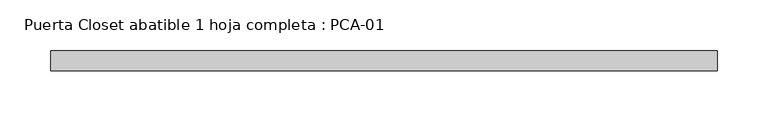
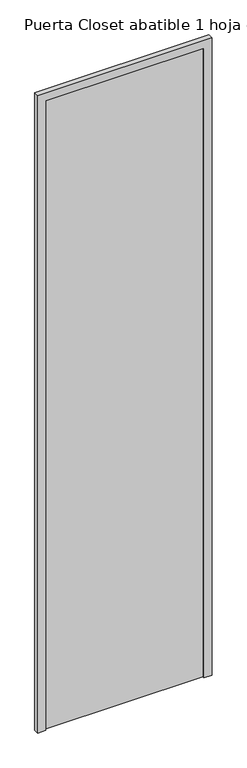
"""IFC4 building model written with IfcOpenShell, lengths in millimetres: furniture geometry, Puerta Closet abatible 1 hoja completa : PCA-01."""

import ifcopenshell
import ifcopenshell.guid

model = None  # the IFC model being written
_history = None  # IfcOwnerHistory: only IFC2X3 demands one
_inside = {}  # id of a spatial element -> (the spatial element, [elements in it])
_under = {}  # id of a project, library or spatial element -> (it, [spatial elements below it])
_declared = {}  # id of a project -> (the project, [libraries it declares])
_typed = {}  # id of a type object -> (the type object, [elements of that type])
_made_of = {}  # id of a material, layer set ... -> (it, [elements and type objects made of it])


def new_model(schema):
    """Start an empty IFC model of exactly this schema.

    Asked for "IFC4X3", IfcOpenShell would pick the latest addendum, in which some entities
    have other attributes; the version numbers below select the first issue.
    IFC2X3 requires an IfcOwnerHistory on every rooted entity: one is made here for all.
    """
    global model, _history
    if schema == "IFC4X3":
        model = ifcopenshell.file(schema_version=(4, 3, 0, 0))
    else:
        model = ifcopenshell.file(schema=schema)
    _inside.clear()
    _under.clear()
    _declared.clear()
    _typed.clear()
    _made_of.clear()
    _history = None
    if model.schema == "IFC2X3":
        org = make("IfcOrganization", Name="unknown")
        user = make(
            "IfcPersonAndOrganization",
            ThePerson=make("IfcPerson", FamilyName="unknown"),
            TheOrganization=org,
        )
        app = make(
            "IfcApplication",
            ApplicationDeveloper=org,
            Version="unknown",
            ApplicationFullName="unknown",
            ApplicationIdentifier="unknown",
        )
        _history = make(
            "IfcOwnerHistory",
            OwningUser=user,
            OwningApplication=app,
            ChangeAction="ADDED",
            CreationDate=0,
        )
    return model


def make(cls, **values):
    """One entity of the class cls with the attributes given. An attribute that is None is left unset."""
    return model.create_entity(
        cls, **{name: value for name, value in values.items() if value is not None}
    )


def rooted(cls, **values):
    """An entity with a GlobalId (a new one), such as an element, a storey or a relation."""
    return make(cls, GlobalId=ifcopenshell.guid.new(), OwnerHistory=_history, **values)


def si_unit(unit_type, name, prefix=None):
    """IfcSIUnit, for example si_unit("LENGTHUNIT", "METRE", prefix="MILLI")."""
    return make("IfcSIUnit", UnitType=unit_type, Prefix=prefix, Name=name)


def assignment(units):
    """IfcUnitAssignment: the units of a project."""
    return None if units is None else make("IfcUnitAssignment", Units=units)


def point(xyz):
    """IfcCartesianPoint."""
    return None if xyz is None else make("IfcCartesianPoint", Coordinates=xyz)


def direction(xyz):
    """IfcDirection."""
    return None if xyz is None else make("IfcDirection", DirectionRatios=xyz)


def frame(location, z_axis=None, x_axis=None):
    """IfcAxis2Placement3D, a coordinate frame: its origin and axes. An axis left out is left unset."""
    return make(
        "IfcAxis2Placement3D",
        Location=point(location),
        Axis=direction(z_axis),
        RefDirection=direction(x_axis),
    )


def origin():
    """The frame at (0, 0, 0) with its axes left unset."""
    return frame((0.0, 0.0, 0.0))


def origin_with_axes():
    """The frame at (0, 0, 0) with the z axis (0, 0, 1) and the x axis (1, 0, 0) written out."""
    return frame((0.0, 0.0, 0.0), z_axis=(0.0, 0.0, 1.0), x_axis=(1.0, 0.0, 0.0))


def place(relative_to, where):
    """IfcLocalPlacement: puts the frame where relative to a parent placement (None: the world)."""
    return make(
        "IfcLocalPlacement", PlacementRelTo=relative_to, RelativePlacement=where
    )


def context(
    kind, dimensions, precision=None, world=None, true_north=None, identifier=None
):
    """IfcGeometricRepresentationContext, for example the 3D "Model" context."""
    return make(
        "IfcGeometricRepresentationContext",
        ContextIdentifier=identifier,
        ContextType=kind,
        CoordinateSpaceDimension=dimensions,
        Precision=precision,
        WorldCoordinateSystem=world,
        TrueNorth=true_north,
    )


def project(units=None, contexts=None):
    """IfcProject with its units and contexts."""
    return rooted(
        "IfcProject",
        Name="project",
        RepresentationContexts=contexts,
        UnitsInContext=assignment(units),
    )


def spatial(cls, under=None, at=None, **own):
    """A site, building, storey or space (cls), placed at a placement, below another one or the project."""
    s = rooted(cls, ObjectPlacement=at, **own)
    if under is not None:
        _under.setdefault(under.id(), (under, []))[1].append(s)
    return s


def polyline(points):
    """IfcPolyline through the points."""
    return make("IfcPolyline", Points=[point(p) for p in points])


def outline(outer, holes=None, kind="AREA"):
    """IfcArbitraryClosedProfileDef: a profile drawn as a closed curve; with holes, ...WithVoids."""
    if holes is None:
        return make("IfcArbitraryClosedProfileDef", ProfileType=kind, OuterCurve=outer)
    return make(
        "IfcArbitraryProfileDefWithVoids",
        ProfileType=kind,
        OuterCurve=outer,
        InnerCurves=holes,
    )


def extrude(swept, where, along, depth):
    """IfcExtrudedAreaSolid: the profile swept, set in the frame where, extruded along a direction by depth."""
    return make(
        "IfcExtrudedAreaSolid",
        SweptArea=swept,
        Position=where,
        ExtrudedDirection=direction(along),
        Depth=depth,
    )


def shape(context_of_items, identifier, shape_type, items):
    """IfcShapeRepresentation: the items that make up one representation, for example the "Body"."""
    return make(
        "IfcShapeRepresentation",
        ContextOfItems=context_of_items,
        RepresentationIdentifier=identifier,
        RepresentationType=shape_type,
        Items=items,
    )


def source(mapping_origin, context_of_items, identifier, shape_type, items):
    """IfcRepresentationMap: a shape defined once, which mapped items show again and again."""
    return make(
        "IfcRepresentationMap",
        MappingOrigin=mapping_origin,
        MappedRepresentation=shape(context_of_items, identifier, shape_type, items),
    )


def transform(
    local_origin,
    x_axis=None,
    y_axis=None,
    z_axis=None,
    scale=None,
    scale2=None,
    scale3=None,
    uniform=True,
):
    """IfcCartesianTransformationOperator3D, or its non-uniform kind. x_axis, y_axis, z_axis: its Axis1, 2, 3."""
    if uniform:
        return make(
            "IfcCartesianTransformationOperator3D",
            Axis1=direction(x_axis),
            Axis2=direction(y_axis),
            LocalOrigin=point(local_origin),
            Scale=scale,
            Axis3=direction(z_axis),
        )
    return make(
        "IfcCartesianTransformationOperator3DnonUniform",
        Axis1=direction(x_axis),
        Axis2=direction(y_axis),
        LocalOrigin=point(local_origin),
        Scale=scale,
        Axis3=direction(z_axis),
        Scale2=scale2,
        Scale3=scale3,
    )


def mapped(mapping_source, mapping_target):
    """IfcMappedItem: shows the shape of a source again, moved by a transform."""
    return make(
        "IfcMappedItem", MappingSource=mapping_source, MappingTarget=mapping_target
    )


def made_of(thing, what):
    """Note that an element or type object is made of a material, layer set ...; save() writes the relation."""
    if what is not None:
        _made_of.setdefault(what.id(), (what, []))[1].append(thing)
    return thing


def element(
    cls,
    number,
    at=None,
    inside=None,
    cuts=None,
    type_object=None,
    material=None,
    context=None,
    identifier="Body",
    shape_type=None,
    held_by="IfcProductDefinitionShape",
    body=None,
    shapes=None,
    **own,
):
    """One element of the class cls, such as IfcWall. Its Tag is "e" and its number.

    at: its placement. inside: the storey or other place that contains it. cuts: it is an
    opening in that element (IfcRelVoidsElement). A single representation is given by context,
    identifier, shape_type and body (its items); several are given by shapes. held_by: the class
    of the entity that holds the representations. save() writes the other relations.
    """
    e = rooted(cls, Tag="e%d" % number, ObjectPlacement=at, **own)
    if body is not None:
        shapes = [shape(context, identifier, shape_type, body)]
    if shapes is not None:
        e.Representation = make(held_by, Representations=shapes)
    if inside is not None:
        _inside.setdefault(inside.id(), (inside, []))[1].append(e)
    if cuts is not None:
        rooted(
            "IfcRelVoidsElement", RelatingBuildingElement=cuts, RelatedOpeningElement=e
        )
    if type_object is not None:
        _typed.setdefault(type_object.id(), (type_object, []))[1].append(e)
    return made_of(e, material)


def aggregate(whole, parts):
    """IfcRelAggregates: a whole, such as a stair, and the parts it consists of."""
    return rooted("IfcRelAggregates", RelatingObject=whole, RelatedObjects=parts)


def save(model, path):
    """Write the relations noted so far, then the file.

    IfcRelAggregates (storeys below a building ...), IfcRelContainedInSpatialStructure (elements
    in a storey), IfcRelDefinesByType, IfcRelAssociatesMaterial and IfcRelDeclares: one each for
    every whole, place, type object, material and project.
    """
    for whole, parts in _under.values():
        aggregate(whole, parts)
    for where, things in _inside.values():
        rooted(
            "IfcRelContainedInSpatialStructure",
            RelatedElements=things,
            RelatingStructure=where,
        )
    for kind, things in _typed.values():
        rooted("IfcRelDefinesByType", RelatedObjects=things, RelatingType=kind)
    for what, things in _made_of.values():
        rooted("IfcRelAssociatesMaterial", RelatedObjects=things, RelatingMaterial=what)
    for by, libraries in _declared.values():
        rooted("IfcRelDeclares", RelatingContext=by, RelatedDefinitions=libraries)
    model.write(path)


def puerta_closet_abatible_1_hoja_completa_pca_01_d6df396d(model_context):
    return source(origin(), model_context, "Body", "SweptSolid", [
        extrude(outline(polyline([(-660.0, 86.6666667), (-1260.0, 86.6666667), (-1260.0, 93.3333333), (-660.0, 93.3333333), (-660.0, 86.6666667)])), origin_with_axes(), (0.0, 0.0, 1.0), 2520.0),
        extrude(outline(polyline([(0.0, -1290.0), (0.0, -1260.0), (2520.0, -1260.0), (2520.0, -660.0), (0.0, -660.0), (0.0, -630.0), (2550.0, -630.0), (2550.0, -1290.0), (0.0, -1290.0)])), frame((0.0, 80.0, 0.0), z_axis=(0.0, 1.0, 0.0), x_axis=(0.0, 0.0, 1.0)), (0.0, 0.0, 1.0), 20.0),
    ])


if __name__ == "__main__":
    model = new_model("IFC4")
    model_context = context("Model", 3, world=origin())
    ifc_project = project(units=[si_unit("LENGTHUNIT", "METRE", prefix="MILLI")], contexts=[model_context])
    site = spatial("IfcSite", under=ifc_project)
    building = spatial("IfcBuilding", under=site)
    placement = place(None, origin())
    puerta_closet_abatible_1_hoja_completa_pca_01_shape = puerta_closet_abatible_1_hoja_completa_pca_01_d6df396d(model_context)
    element("IfcFurniture", 1, ObjectType="Puerta Closet abatible 1 hoja completa : PCA-01", at=placement, inside=building, context=model_context, shape_type="MappedRepresentation", body=[
        mapped(puerta_closet_abatible_1_hoja_completa_pca_01_shape, transform((0.0, 0.0, 0.0), x_axis=(1.0, 0.0, 0.0), y_axis=(0.0, 1.0, 0.0), z_axis=(0.0, 0.0, 1.0))),
    ])
    save(model, "model.ifc")
